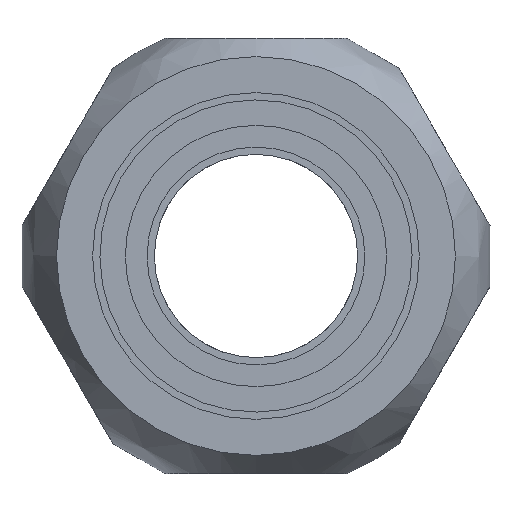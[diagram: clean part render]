
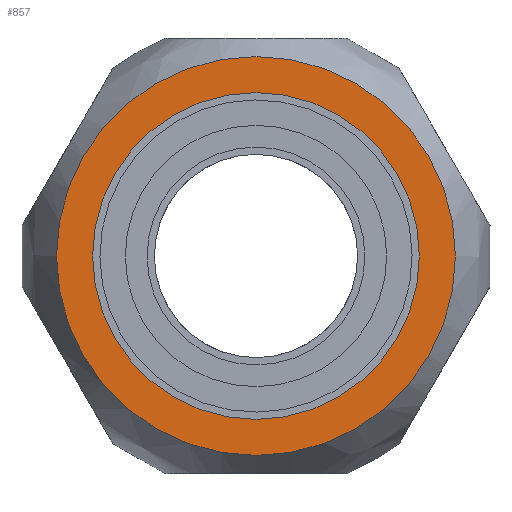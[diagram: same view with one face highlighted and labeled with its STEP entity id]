
A CAD part, left-side view. The second image highlights one B-rep face of the part: STEP entity #857.
In plain terms, the highlighted planar face has unit normal (-1, 0, 0).
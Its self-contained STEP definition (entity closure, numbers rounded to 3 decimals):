
#85=FACE_BOUND('',#193,.T.);
#105=PLANE('',#1021);
#135=FACE_OUTER_BOUND('',#192,.T.);
#192=EDGE_LOOP('',(#643,#644));
#193=EDGE_LOOP('',(#645,#646));
#319=CIRCLE('',#1013,13.735);
#320=CIRCLE('',#1014,13.735);
#323=CIRCLE('',#1019,11.25);
#324=CIRCLE('',#1020,11.25);
#398=VERTEX_POINT('',#1834);
#399=VERTEX_POINT('',#1838);
#402=VERTEX_POINT('',#1847);
#403=VERTEX_POINT('',#1849);
#493=EDGE_CURVE('',#398,#399,#319,.T.);
#494=EDGE_CURVE('',#399,#398,#320,.T.);
#498=EDGE_CURVE('',#403,#402,#323,.T.);
#499=EDGE_CURVE('',#402,#403,#324,.T.);
#643=ORIENTED_EDGE('',*,*,#494,.F.);
#644=ORIENTED_EDGE('',*,*,#493,.F.);
#645=ORIENTED_EDGE('',*,*,#498,.T.);
#646=ORIENTED_EDGE('',*,*,#499,.T.);
#857=ADVANCED_FACE('',(#135,#85),#105,.T.);
#1013=AXIS2_PLACEMENT_3D('',#1839,#1163,#1164);
#1014=AXIS2_PLACEMENT_3D('',#1840,#1165,#1166);
#1019=AXIS2_PLACEMENT_3D('',#1850,#1176,#1177);
#1020=AXIS2_PLACEMENT_3D('',#1851,#1178,#1179);
#1021=AXIS2_PLACEMENT_3D('',#1852,#1180,#1181);
#1163=DIRECTION('center_axis',(1.,0.,0.));
#1164=DIRECTION('ref_axis',(0.,1.,0.));
#1165=DIRECTION('center_axis',(1.,0.,0.));
#1166=DIRECTION('ref_axis',(0.,1.,0.));
#1176=DIRECTION('center_axis',(1.,0.,0.));
#1177=DIRECTION('ref_axis',(0.,1.,0.));
#1178=DIRECTION('center_axis',(1.,0.,0.));
#1179=DIRECTION('ref_axis',(0.,1.,0.));
#1180=DIRECTION('center_axis',(-1.,0.,0.));
#1181=DIRECTION('ref_axis',(0.,0.,1.));
#1834=CARTESIAN_POINT('',(0.,0.,13.735));
#1838=CARTESIAN_POINT('',(0.,13.735,0.));
#1839=CARTESIAN_POINT('Origin',(0.,0.,0.));
#1840=CARTESIAN_POINT('Origin',(0.,0.,0.));
#1847=CARTESIAN_POINT('',(0.,-11.25,0.));
#1849=CARTESIAN_POINT('',(0.,11.25,0.));
#1850=CARTESIAN_POINT('Origin',(0.,0.,0.));
#1851=CARTESIAN_POINT('Origin',(0.,0.,0.));
#1852=CARTESIAN_POINT('Origin',(0.,12.493,0.));
